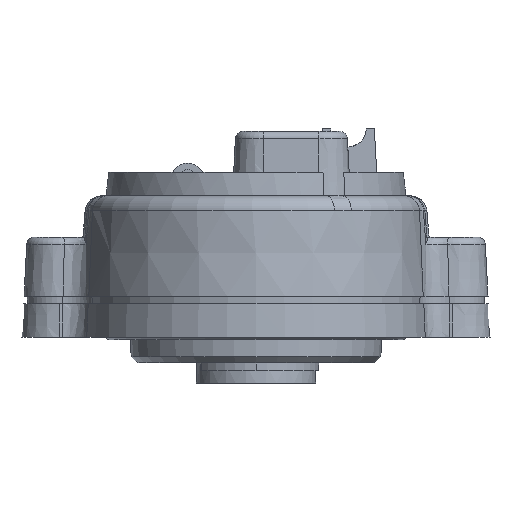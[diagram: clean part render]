
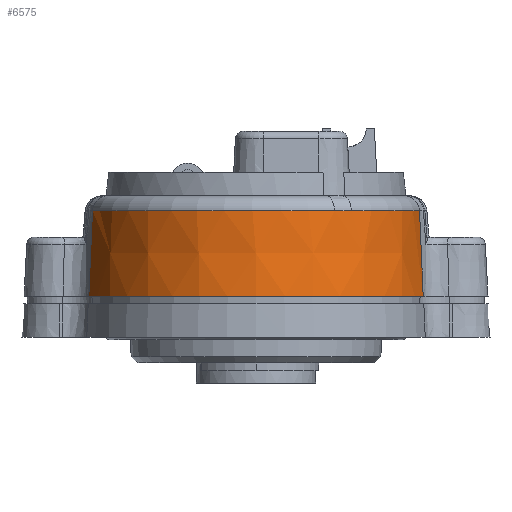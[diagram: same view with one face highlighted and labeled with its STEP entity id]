
A CAD part, left-side view. The second image highlights one B-rep face of the part: STEP entity #6575.
In plain terms, the highlighted conical face has half-angle 3 degrees and reference radius 21.75 mm.
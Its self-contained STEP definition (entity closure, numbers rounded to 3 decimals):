
#96 = ORIENTED_EDGE ( 'NONE', *, *, #33002, .F. ) ;
#457 = AXIS2_PLACEMENT_3D ( 'NONE', #36054, #10535, #35938 ) ;
#558 = CIRCLE ( 'NONE', #26090, 21.698 ) ;
#574 = DIRECTION ( 'NONE',  ( 0., 0., -1. ) ) ;
#923 = CARTESIAN_POINT ( 'NONE',  ( -41.273, 20.789, 16.055 ) ) ;
#936 = CARTESIAN_POINT ( 'NONE',  ( -56.124, -9.978, 16.055 ) ) ;
#1697 = DIRECTION ( 'NONE',  ( 0., 0., -1. ) ) ;
#2162 = DIRECTION ( 'NONE',  ( 0., 0., -1. ) ) ;
#3099 = DIRECTION ( 'NONE',  ( 0., -1., 0. ) ) ;
#3901 = VERTEX_POINT ( 'NONE', #34732 ) ;
#4888 = CARTESIAN_POINT ( 'NONE',  ( -41.273, -20.789, 16.055 ) ) ;
#6181 = CARTESIAN_POINT ( 'NONE',  ( -41.273, -20.789, 16.055 ) ) ;
#6562 = CARTESIAN_POINT ( 'NONE',  ( -54.8, -12.13, 16.055 ) ) ;
#6575 = ADVANCED_FACE ( 'NONE', ( #8527 ), #12500, .T. ) ;
#7617 = AXIS2_PLACEMENT_3D ( 'NONE', #23270, #574, #3099 ) ;
#7799 = CARTESIAN_POINT ( 'NONE',  ( -41.849, -21.257, 5.2 ) ) ;
#8527 = FACE_OUTER_BOUND ( 'NONE', #27458, .T. ) ;
#8797 = CIRCLE ( 'NONE', #457, 21.129 ) ;
#9429 = EDGE_CURVE ( 'NONE', #30164, #31061, #26683, .T. ) ;
#10503 = EDGE_CURVE ( 'NONE', #31061, #25925, #8797, .T. ) ;
#10535 = DIRECTION ( 'NONE',  ( 0., 0., -1. ) ) ;
#10793 = B_SPLINE_CURVE_WITH_KNOTS ( 'NONE', 3,
 ( #18501, #27244, #18891, #27096 ),
 .UNSPECIFIED., .F., .F.,
 ( 4, 4 ),
 ( 0.002, 0.013 ),
 .UNSPECIFIED. ) ;
#11352 = CARTESIAN_POINT ( 'NONE',  ( -41.849, -21.257, 5.2 ) ) ;
#12205 = CARTESIAN_POINT ( 'NONE',  ( -55.925, -10.35, 16.055 ) ) ;
#12500 = CONICAL_SURFACE ( 'NONE', #24305, 21.75, 0.052 ) ;
#13335 = ORIENTED_EDGE ( 'NONE', *, *, #10503, .T. ) ;
#13599 = CARTESIAN_POINT ( 'NONE',  ( -54.8, -12.13, 16.055 ) ) ;
#14153 = EDGE_CURVE ( 'NONE', #34152, #30164, #32617, .T. ) ;
#16199 = DIRECTION ( 'NONE',  ( 0., 1., 0. ) ) ;
#17940 = CARTESIAN_POINT ( 'NONE',  ( -56.124, -9.978, 16.055 ) ) ;
#18501 = CARTESIAN_POINT ( 'NONE',  ( -41.273, 20.789, 16.055 ) ) ;
#18875 = CARTESIAN_POINT ( 'NONE',  ( -37.5, 0., 4.2 ) ) ;
#18891 = CARTESIAN_POINT ( 'NONE',  ( -41.663, 21.102, 8.819 ) ) ;
#19690 = DIRECTION ( 'NONE',  ( 0., -1., 0. ) ) ;
#20115 = ORIENTED_EDGE ( 'NONE', *, *, #9429, .T. ) ;
#20850 = EDGE_CURVE ( 'NONE', #21560, #34152, #22083, .T. ) ;
#21422 = ORIENTED_EDGE ( 'NONE', *, *, #25607, .T. ) ;
#21560 = VERTEX_POINT ( 'NONE', #7799 ) ;
#22083 = B_SPLINE_CURVE_WITH_KNOTS ( 'NONE', 3,
 ( #11352, #31373, #25753, #6181 ),
 .UNSPECIFIED., .F., .F.,
 ( 4, 4 ),
 ( 0.001, 0.012 ),
 .UNSPECIFIED. ) ;
#23270 = CARTESIAN_POINT ( 'NONE',  ( -37.5, 0., 16.055 ) ) ;
#24305 = AXIS2_PLACEMENT_3D ( 'NONE', #18875, #1697, #16199 ) ;
#25607 = EDGE_CURVE ( 'NONE', #25925, #3901, #10793, .T. ) ;
#25753 = CARTESIAN_POINT ( 'NONE',  ( -41.471, -20.946, 12.437 ) ) ;
#25925 = VERTEX_POINT ( 'NONE', #923 ) ;
#26090 = AXIS2_PLACEMENT_3D ( 'NONE', #36806, #2162, #19690 ) ;
#26215 = CARTESIAN_POINT ( 'NONE',  ( -55.505, -11.08, 16.064 ) ) ;
#26286 = ORIENTED_EDGE ( 'NONE', *, *, #14153, .T. ) ;
#26683 = B_SPLINE_CURVE_WITH_KNOTS ( 'NONE', 3,
 ( #13599, #36151, #26215, #12205, #936 ),
 .UNSPECIFIED., .F., .F.,
 ( 4, 1, 4 ),
 ( 0., 0.001, 0.003 ),
 .UNSPECIFIED. ) ;
#27096 = CARTESIAN_POINT ( 'NONE',  ( -41.849, 21.257, 5.2 ) ) ;
#27244 = CARTESIAN_POINT ( 'NONE',  ( -41.471, 20.946, 12.437 ) ) ;
#27458 = EDGE_LOOP ( 'NONE', ( #29709, #26286, #20115, #13335, #21422, #96 ) ) ;
#29709 = ORIENTED_EDGE ( 'NONE', *, *, #20850, .T. ) ;
#30164 = VERTEX_POINT ( 'NONE', #6562 ) ;
#31061 = VERTEX_POINT ( 'NONE', #17940 ) ;
#31373 = CARTESIAN_POINT ( 'NONE',  ( -41.663, -21.102, 8.819 ) ) ;
#32617 = CIRCLE ( 'NONE', #7617, 21.129 ) ;
#33002 = EDGE_CURVE ( 'NONE', #21560, #3901, #558, .T. ) ;
#34152 = VERTEX_POINT ( 'NONE', #4888 ) ;
#34732 = CARTESIAN_POINT ( 'NONE',  ( -41.849, 21.257, 5.2 ) ) ;
#35938 = DIRECTION ( 'NONE',  ( 0., -1., 0. ) ) ;
#36054 = CARTESIAN_POINT ( 'NONE',  ( -37.5, 0., 16.055 ) ) ;
#36151 = CARTESIAN_POINT ( 'NONE',  ( -55.042, -11.784, 16.055 ) ) ;
#36806 = CARTESIAN_POINT ( 'NONE',  ( -37.5, 0., 5.2 ) ) ;
